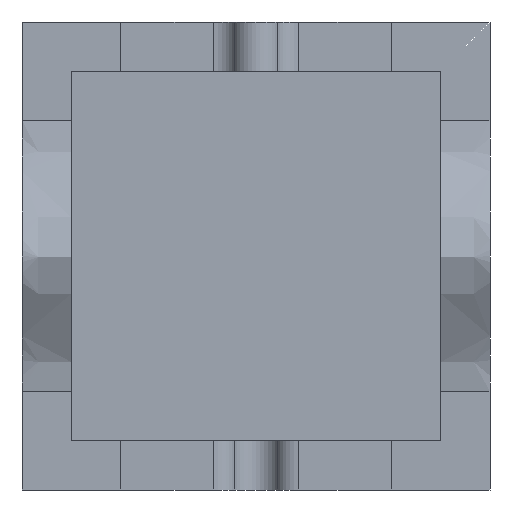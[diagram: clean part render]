
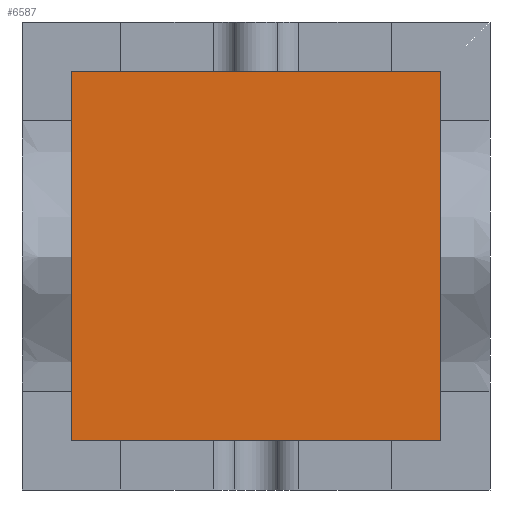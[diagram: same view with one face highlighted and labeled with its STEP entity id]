
A CAD part, front view. The second image highlights one B-rep face of the part: STEP entity #6587.
In plain terms, the highlighted planar face has unit normal (0, -1, 0).
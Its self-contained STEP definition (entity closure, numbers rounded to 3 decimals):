
#6461=CARTESIAN_POINT('Vertex',(-20.,-30.,-20.)) ;
#6466=CARTESIAN_POINT('Line Origine',(-20.,-30.,55.)) ;
#6470=CARTESIAN_POINT('Vertex',(-20.,-30.,130.)) ;
#6497=CARTESIAN_POINT('Line Origine',(55.,-30.,130.)) ;
#6501=CARTESIAN_POINT('Vertex',(130.,-30.,130.)) ;
#6528=CARTESIAN_POINT('Line Origine',(130.,-30.,55.)) ;
#6532=CARTESIAN_POINT('Vertex',(130.,-30.,-20.)) ;
#6559=CARTESIAN_POINT('Line Origine',(55.,-30.,-20.)) ;
#6576=CARTESIAN_POINT('Axis2P3D Location',(0.,-30.,0.)) ;
#6467=DIRECTION('Vector Direction',(0.,0.,-1.)) ;
#6498=DIRECTION('Vector Direction',(1.,0.,0.)) ;
#6529=DIRECTION('Vector Direction',(0.,0.,1.)) ;
#6560=DIRECTION('Vector Direction',(-1.,0.,0.)) ;
#6577=DIRECTION('Axis2P3D Direction',(0.,1.,0.)) ;
#6578=DIRECTION('Axis2P3D XDirection',(-1.,0.,0.)) ;
#6579=AXIS2_PLACEMENT_3D('Plane Axis2P3D',#6576,#6577,#6578) ;
#6582=ORIENTED_EDGE('',*,*,#6563,.F.) ;
#6583=ORIENTED_EDGE('',*,*,#6534,.F.) ;
#6584=ORIENTED_EDGE('',*,*,#6503,.F.) ;
#6585=ORIENTED_EDGE('',*,*,#6472,.F.) ;
#6468=VECTOR('Line Direction',#6467,1.) ;
#6499=VECTOR('Line Direction',#6498,1.) ;
#6530=VECTOR('Line Direction',#6529,1.) ;
#6561=VECTOR('Line Direction',#6560,1.) ;
#6587=ADVANCED_FACE('Cavity-molde',(#6586),#6580,.F.) ;
#6472=EDGE_CURVE('',#6462,#6471,#6469,.F.) ;
#6503=EDGE_CURVE('',#6471,#6502,#6500,.T.) ;
#6534=EDGE_CURVE('',#6502,#6533,#6531,.F.) ;
#6563=EDGE_CURVE('',#6533,#6462,#6562,.T.) ;
#6581=EDGE_LOOP('',(#6582,#6583,#6584,#6585)) ;
#6586=FACE_OUTER_BOUND('',#6581,.T.) ;
#6469=LINE('Line',#6466,#6468) ;
#6500=LINE('Line',#6497,#6499) ;
#6531=LINE('Line',#6528,#6530) ;
#6562=LINE('Line',#6559,#6561) ;
#6580=PLANE('',#6579) ;
#6462=VERTEX_POINT('',#6461) ;
#6471=VERTEX_POINT('',#6470) ;
#6502=VERTEX_POINT('',#6501) ;
#6533=VERTEX_POINT('',#6532) ;
